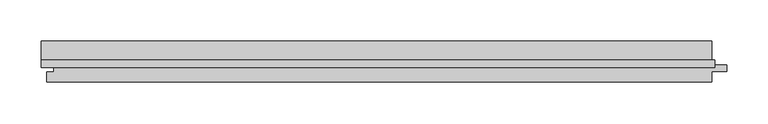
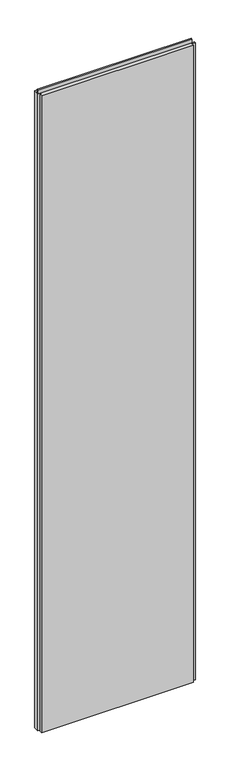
"""IFC4 building model written with IfcOpenShell, lengths in millimetres: plate geometry, Trimo_Qbiss Screen_Normal Panel-VERTICAL : HR - FB."""

from ifc_helpers import new_model, si_unit, frame, origin, place, context, project, spatial, polyline, outline, extrude, source, transform, mapped, element, save


def plate_c780134f(model_context):
    return source(origin(), model_context, "Body", "SweptSolid", [
        extrude(outline(polyline([(-351.0, 93.9), (-351.0, 102.6), (467.0, 102.6), (467.0, 93.9), (-351.0, 93.9)])), frame((0.0, 0.0, 3590.5), z_axis=(0.0, 0.0, 1.0), x_axis=(1.0, 0.0, 0.0)), (0.0, 0.0, 1.0), 19.0),
        extrude(outline(polyline([(463.0, 97.0), (481.5, 97.0), (481.5, 89.0), (463.0, 89.0), (463.0, 76.0), (-344.0, 76.0), (-344.0, 88.0), (-335.5, 88.0), (-335.5, 98.0), (-351.0, 98.0), (-351.0, 126.0), (463.0, 126.0), (463.0, 97.0)])), frame((0.0, 0.0, 12.5), z_axis=(0.0, 0.0, 1.0), x_axis=(1.0, 0.0, 0.0)), (0.0, 0.0, 1.0), 3575.0),
    ])


if __name__ == "__main__":
    model = new_model("IFC4")
    model_context = context("Model", 3, world=origin())
    ifc_project = project(units=[si_unit("LENGTHUNIT", "METRE", prefix="MILLI")], contexts=[model_context])
    site = spatial("IfcSite", under=ifc_project)
    building = spatial("IfcBuilding", under=site)
    placement = place(None, origin())
    plate_shape = plate_c780134f(model_context)
    element("IfcPlate", 1, ObjectType="Trimo_Qbiss Screen_Normal Panel-VERTICAL : HR - FB", at=placement, inside=building, context=model_context, shape_type="MappedRepresentation", body=[
        mapped(plate_shape, transform((0.0, 0.0, 0.0), x_axis=(1.0, 0.0, 0.0), y_axis=(0.0, 1.0, 0.0), z_axis=(0.0, 0.0, 1.0))),
    ])
    save(model, "model.ifc")
